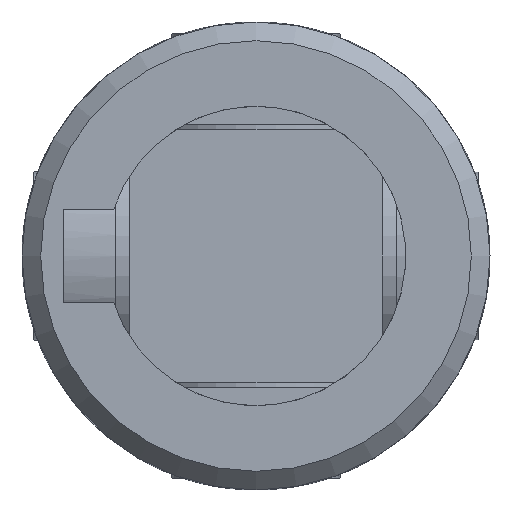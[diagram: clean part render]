
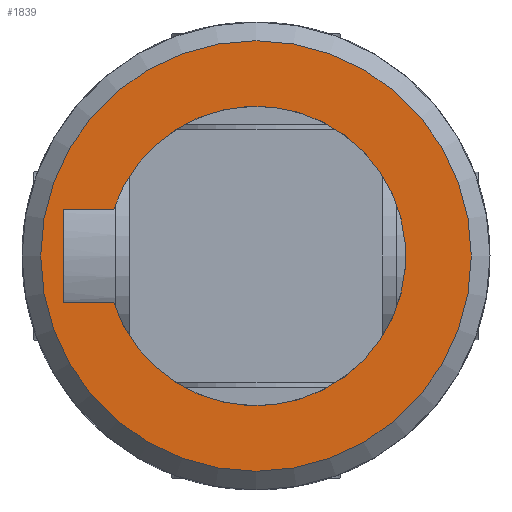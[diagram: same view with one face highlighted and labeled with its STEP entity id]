
A CAD part, front view. The second image highlights one B-rep face of the part: STEP entity #1839.
In plain terms, the highlighted planar face has unit normal (0, -1, 0).
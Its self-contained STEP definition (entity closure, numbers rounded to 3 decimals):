
#110=LINE('',#3493,#171);
#112=LINE('',#3499,#173);
#119=LINE('',#3546,#180);
#171=VECTOR('',#2414,5.);
#173=VECTOR('',#2420,2.701);
#180=VECTOR('',#2435,2.701);
#234=PLANE('',#2033);
#405=FACE_BOUND('',#646,.T.);
#498=FACE_OUTER_BOUND('',#645,.T.);
#645=EDGE_LOOP('',(#1619));
#646=EDGE_LOOP('',(#1620,#1621,#1622,#1623));
#740=CIRCLE('',#2017,8.);
#749=CIRCLE('',#2031,11.5);
#893=VERTEX_POINT('',#3490);
#894=VERTEX_POINT('',#3492);
#896=VERTEX_POINT('',#3498);
#898=VERTEX_POINT('',#3512);
#912=VERTEX_POINT('',#3591);
#1124=EDGE_CURVE('',#894,#893,#110,.T.);
#1127=EDGE_CURVE('',#896,#894,#112,.T.);
#1131=EDGE_CURVE('',#898,#896,#740,.T.);
#1139=EDGE_CURVE('',#893,#898,#119,.T.);
#1152=EDGE_CURVE('',#912,#912,#749,.T.);
#1619=ORIENTED_EDGE('',*,*,#1152,.F.);
#1620=ORIENTED_EDGE('',*,*,#1124,.T.);
#1621=ORIENTED_EDGE('',*,*,#1139,.T.);
#1622=ORIENTED_EDGE('',*,*,#1131,.T.);
#1623=ORIENTED_EDGE('',*,*,#1127,.T.);
#1839=ADVANCED_FACE('',(#498,#405),#234,.F.);
#2017=AXIS2_PLACEMENT_3D('',#3513,#2425,#2426);
#2031=AXIS2_PLACEMENT_3D('',#3592,#2458,#2459);
#2033=AXIS2_PLACEMENT_3D('',#3808,#2466,#2467);
#2414=DIRECTION('',(-1.,0.,0.));
#2420=DIRECTION('',(0.,0.,-1.));
#2425=DIRECTION('center_axis',(0.,1.,0.));
#2426=DIRECTION('ref_axis',(0.312,0.,-0.95));
#2435=DIRECTION('',(0.,0.,1.));
#2458=DIRECTION('center_axis',(0.,1.,0.));
#2459=DIRECTION('ref_axis',(1.,0.,0.));
#2466=DIRECTION('center_axis',(0.,1.,0.));
#2467=DIRECTION('ref_axis',(0.,0.,1.));
#3490=CARTESIAN_POINT('',(-2.5,-43.5,-10.3));
#3492=CARTESIAN_POINT('',(2.5,-43.5,-10.3));
#3493=CARTESIAN_POINT('',(1.25,-43.5,-10.3));
#3498=CARTESIAN_POINT('',(2.5,-43.5,-7.599));
#3499=CARTESIAN_POINT('',(2.5,-43.5,-3.8));
#3512=CARTESIAN_POINT('',(-2.5,-43.5,-7.599));
#3513=CARTESIAN_POINT('Origin',(0.,-43.5,0.));
#3546=CARTESIAN_POINT('',(-2.5,-43.5,-5.15));
#3591=CARTESIAN_POINT('',(-11.5,-43.5,0.));
#3592=CARTESIAN_POINT('Origin',(0.,-43.5,0.));
#3808=CARTESIAN_POINT('Origin',(0.,-43.5,0.));
